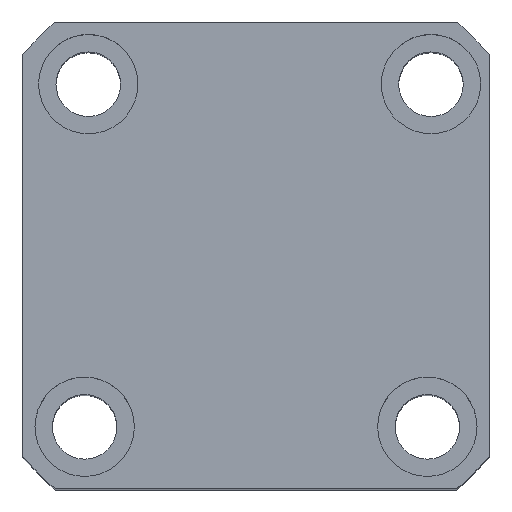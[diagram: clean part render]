
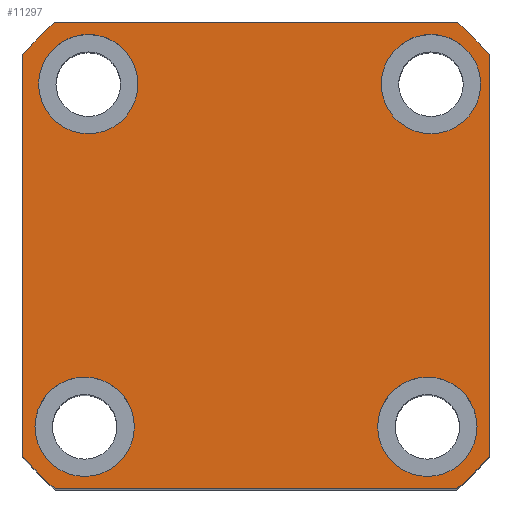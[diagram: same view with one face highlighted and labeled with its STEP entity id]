
A CAD part, top view. The second image highlights one B-rep face of the part: STEP entity #11297.
In plain terms, the highlighted planar face has unit normal (0, 0, 1) as drawn and (0, 0, -1) by its records, which use the part's own axes.
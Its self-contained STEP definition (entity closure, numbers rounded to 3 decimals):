
#88 = VERTEX_POINT ( 'NONE', #19450 ) ;
#106 = VERTEX_POINT ( 'NONE', #18021 ) ;
#240 = CIRCLE ( 'NONE', #19145, 62. ) ;
#349 = ORIENTED_EDGE ( 'NONE', *, *, #3731, .F. ) ;
#384 = CIRCLE ( 'NONE', #8281, 10. ) ;
#445 = CARTESIAN_POINT ( 'NONE',  ( 47., 47., 0. ) ) ;
#562 = DIRECTION ( 'NONE',  ( 1., 0., 0. ) ) ;
#1041 = FACE_BOUND ( 'NONE', #21769, .T. ) ;
#1134 = EDGE_CURVE ( 'NONE', #9403, #4794, #15720, .T. ) ;
#1141 = VERTEX_POINT ( 'NONE', #2913 ) ;
#1464 = EDGE_LOOP ( 'NONE', ( #8419, #349 ) ) ;
#1569 = FACE_BOUND ( 'NONE', #1464, .T. ) ;
#1663 = CARTESIAN_POINT ( 'NONE',  ( -23.77, -34.5, 0. ) ) ;
#1951 = CARTESIAN_POINT ( 'NONE',  ( 34.5, 34.5, 0. ) ) ;
#1957 = ORIENTED_EDGE ( 'NONE', *, *, #2266, .F. ) ;
#2108 = LINE ( 'NONE', #445, #20094 ) ;
#2113 = AXIS2_PLACEMENT_3D ( 'NONE', #7267, #19517, #9022 ) ;
#2143 = CARTESIAN_POINT ( 'NONE',  ( 35.23, -34.5, 0. ) ) ;
#2266 = EDGE_CURVE ( 'NONE', #11599, #15440, #7995, .T. ) ;
#2775 = CARTESIAN_POINT ( 'NONE',  ( 45.23, -34.5, 0. ) ) ;
#2846 = CARTESIAN_POINT ( 'NONE',  ( -33.77, -34.5, 0. ) ) ;
#2913 = CARTESIAN_POINT ( 'NONE',  ( -47., 40.435, 0. ) ) ;
#3047 = ORIENTED_EDGE ( 'NONE', *, *, #3835, .F. ) ;
#3135 = DIRECTION ( 'NONE',  ( 0., 0., 1. ) ) ;
#3565 = ORIENTED_EDGE ( 'NONE', *, *, #20060, .F. ) ;
#3592 = ORIENTED_EDGE ( 'NONE', *, *, #4293, .F. ) ;
#3680 = DIRECTION ( 'NONE',  ( -1., 0., 0. ) ) ;
#3727 = CIRCLE ( 'NONE', #22328, 10. ) ;
#3731 = EDGE_CURVE ( 'NONE', #4794, #9403, #15416, .T. ) ;
#3835 = EDGE_CURVE ( 'NONE', #17194, #88, #5009, .T. ) ;
#3873 = DIRECTION ( 'NONE',  ( -1., 0., 0. ) ) ;
#3984 = DIRECTION ( 'NONE',  ( 1., 0., 0. ) ) ;
#4021 = VERTEX_POINT ( 'NONE', #4110 ) ;
#4110 = CARTESIAN_POINT ( 'NONE',  ( 40.435, -47., 0. ) ) ;
#4134 = ORIENTED_EDGE ( 'NONE', *, *, #19634, .F. ) ;
#4293 = EDGE_CURVE ( 'NONE', #20321, #7074, #21357, .T. ) ;
#4674 = CARTESIAN_POINT ( 'NONE',  ( -24.5, 34.5, 0. ) ) ;
#4794 = VERTEX_POINT ( 'NONE', #1663 ) ;
#5009 = CIRCLE ( 'NONE', #12167, 10. ) ;
#5135 = DIRECTION ( 'NONE',  ( 0., 0., -1. ) ) ;
#5137 = CARTESIAN_POINT ( 'NONE',  ( -40.435, -47., 0. ) ) ;
#5619 = FACE_BOUND ( 'NONE', #20301, .T. ) ;
#5926 = CARTESIAN_POINT ( 'NONE',  ( 47., 40.435, 0. ) ) ;
#6584 = CARTESIAN_POINT ( 'NONE',  ( 0., 0., 0. ) ) ;
#6591 = VERTEX_POINT ( 'NONE', #5137 ) ;
#6612 = CARTESIAN_POINT ( 'NONE',  ( -34.5, 34.5, 0. ) ) ;
#6730 = CIRCLE ( 'NONE', #22167, 62. ) ;
#6755 = VERTEX_POINT ( 'NONE', #12961 ) ;
#6812 = ORIENTED_EDGE ( 'NONE', *, *, #15240, .F. ) ;
#7074 = VERTEX_POINT ( 'NONE', #19542 ) ;
#7109 = DIRECTION ( 'NONE',  ( -1., 0., 0. ) ) ;
#7267 = CARTESIAN_POINT ( 'NONE',  ( -34.5, 34.5, 0. ) ) ;
#7436 = VECTOR ( 'NONE', #13013, 1000. ) ;
#7759 = CIRCLE ( 'NONE', #18778, 62. ) ;
#7768 = CARTESIAN_POINT ( 'NONE',  ( 0., 0., 0. ) ) ;
#7915 = ORIENTED_EDGE ( 'NONE', *, *, #15703, .F. ) ;
#7975 = CARTESIAN_POINT ( 'NONE',  ( -47., -47., 0. ) ) ;
#7995 = CIRCLE ( 'NONE', #11513, 10. ) ;
#8281 = AXIS2_PLACEMENT_3D ( 'NONE', #1951, #14125, #3680 ) ;
#8321 = DIRECTION ( 'NONE',  ( 1., 0., 0. ) ) ;
#8350 = DIRECTION ( 'NONE',  ( -1., 0., 0. ) ) ;
#8419 = ORIENTED_EDGE ( 'NONE', *, *, #1134, .F. ) ;
#8983 = CARTESIAN_POINT ( 'NONE',  ( 35.23, -34.5, 0. ) ) ;
#9022 = DIRECTION ( 'NONE',  ( -1., 0., 0. ) ) ;
#9112 = PLANE ( 'NONE',  #11669 ) ;
#9120 = VERTEX_POINT ( 'NONE', #5926 ) ;
#9133 = CARTESIAN_POINT ( 'NONE',  ( 25.23, -34.5, 0. ) ) ;
#9379 = VERTEX_POINT ( 'NONE', #18676 ) ;
#9403 = VERTEX_POINT ( 'NONE', #13392 ) ;
#9422 = CARTESIAN_POINT ( 'NONE',  ( 0., 0., 0. ) ) ;
#9479 = CARTESIAN_POINT ( 'NONE',  ( -47., 47., 0. ) ) ;
#9818 = CARTESIAN_POINT ( 'NONE',  ( -47., 47., 0. ) ) ;
#9828 = AXIS2_PLACEMENT_3D ( 'NONE', #20690, #10224, #22395 ) ;
#10061 = AXIS2_PLACEMENT_3D ( 'NONE', #2143, #14307, #3873 ) ;
#10087 = LINE ( 'NONE', #7975, #14782 ) ;
#10224 = DIRECTION ( 'NONE',  ( 0., 0., -1. ) ) ;
#10522 = LINE ( 'NONE', #9818, #19307 ) ;
#10744 = DIRECTION ( 'NONE',  ( -1., 0., 0. ) ) ;
#10892 = DIRECTION ( 'NONE',  ( 0., 0., 1. ) ) ;
#10945 = EDGE_CURVE ( 'NONE', #7074, #1141, #240, .T. ) ;
#11100 = CARTESIAN_POINT ( 'NONE',  ( 40.435, 47., 0. ) ) ;
#11173 = DIRECTION ( 'NONE',  ( 1., 0., 0. ) ) ;
#11297 = ADVANCED_FACE ( 'NONE', ( #1569, #19001, #5619, #1041, #20546 ), #9112, .F. ) ;
#11335 = CIRCLE ( 'NONE', #2113, 10. ) ;
#11424 = EDGE_LOOP ( 'NONE', ( #13930, #15061, #6812, #7915, #13130, #14222, #15343, #3592 ) ) ;
#11480 = DIRECTION ( 'NONE',  ( 0., 0., -1. ) ) ;
#11513 = AXIS2_PLACEMENT_3D ( 'NONE', #8983, #21200, #10744 ) ;
#11581 = DIRECTION ( 'NONE',  ( 0., -1., 0. ) ) ;
#11599 = VERTEX_POINT ( 'NONE', #2775 ) ;
#11669 = AXIS2_PLACEMENT_3D ( 'NONE', #7768, #14423, #3984 ) ;
#11732 = ORIENTED_EDGE ( 'NONE', *, *, #14452, .F. ) ;
#12167 = AXIS2_PLACEMENT_3D ( 'NONE', #15619, #5135, #17377 ) ;
#12961 = CARTESIAN_POINT ( 'NONE',  ( 47., -40.435, 0. ) ) ;
#13013 = DIRECTION ( 'NONE',  ( -1., 0., 0. ) ) ;
#13130 = ORIENTED_EDGE ( 'NONE', *, *, #16582, .F. ) ;
#13392 = CARTESIAN_POINT ( 'NONE',  ( -43.77, -34.5, 0. ) ) ;
#13571 = CARTESIAN_POINT ( 'NONE',  ( 0., 0., 0. ) ) ;
#13930 = ORIENTED_EDGE ( 'NONE', *, *, #21895, .F. ) ;
#14125 = DIRECTION ( 'NONE',  ( 0., 0., -1. ) ) ;
#14222 = ORIENTED_EDGE ( 'NONE', *, *, #17578, .F. ) ;
#14307 = DIRECTION ( 'NONE',  ( 0., 0., -1. ) ) ;
#14324 = DIRECTION ( 'NONE',  ( 0., 1., 0. ) ) ;
#14423 = DIRECTION ( 'NONE',  ( 0., 0., 1. ) ) ;
#14452 = EDGE_CURVE ( 'NONE', #88, #17194, #384, .T. ) ;
#14776 = ORIENTED_EDGE ( 'NONE', *, *, #17060, .F. ) ;
#14782 = VECTOR ( 'NONE', #18496, 1000. ) ;
#15061 = ORIENTED_EDGE ( 'NONE', *, *, #20183, .F. ) ;
#15240 = EDGE_CURVE ( 'NONE', #4021, #6755, #18079, .T. ) ;
#15343 = ORIENTED_EDGE ( 'NONE', *, *, #10945, .F. ) ;
#15348 = DIRECTION ( 'NONE',  ( 1., 0., 0. ) ) ;
#15416 = CIRCLE ( 'NONE', #9828, 10. ) ;
#15440 = VERTEX_POINT ( 'NONE', #9133 ) ;
#15619 = CARTESIAN_POINT ( 'NONE',  ( 34.5, 34.5, 0. ) ) ;
#15703 = EDGE_CURVE ( 'NONE', #6591, #4021, #10087, .T. ) ;
#15720 = CIRCLE ( 'NONE', #15944, 10. ) ;
#15725 = VERTEX_POINT ( 'NONE', #4674 ) ;
#15944 = AXIS2_PLACEMENT_3D ( 'NONE', #2846, #11480, #7109 ) ;
#16582 = EDGE_CURVE ( 'NONE', #9379, #6591, #6730, .T. ) ;
#16667 = EDGE_LOOP ( 'NONE', ( #14776, #1957 ) ) ;
#17060 = EDGE_CURVE ( 'NONE', #15440, #11599, #17972, .T. ) ;
#17194 = VERTEX_POINT ( 'NONE', #21191 ) ;
#17273 = AXIS2_PLACEMENT_3D ( 'NONE', #6584, #18832, #8321 ) ;
#17377 = DIRECTION ( 'NONE',  ( -1., 0., 0. ) ) ;
#17578 = EDGE_CURVE ( 'NONE', #1141, #9379, #10522, .T. ) ;
#17972 = CIRCLE ( 'NONE', #10061, 10. ) ;
#18021 = CARTESIAN_POINT ( 'NONE',  ( -44.5, 34.5, 0. ) ) ;
#18079 = CIRCLE ( 'NONE', #17273, 62. ) ;
#18496 = DIRECTION ( 'NONE',  ( 1., 0., 0. ) ) ;
#18676 = CARTESIAN_POINT ( 'NONE',  ( -47., -40.435, 0. ) ) ;
#18778 = AXIS2_PLACEMENT_3D ( 'NONE', #13571, #3135, #15348 ) ;
#18832 = DIRECTION ( 'NONE',  ( 0., 0., 1. ) ) ;
#18861 = DIRECTION ( 'NONE',  ( 0., 0., -1. ) ) ;
#19001 = FACE_BOUND ( 'NONE', #16667, .T. ) ;
#19145 = AXIS2_PLACEMENT_3D ( 'NONE', #21348, #10892, #562 ) ;
#19307 = VECTOR ( 'NONE', #11581, 1000. ) ;
#19450 = CARTESIAN_POINT ( 'NONE',  ( 24.5, 34.5, 0. ) ) ;
#19517 = DIRECTION ( 'NONE',  ( 0., 0., -1. ) ) ;
#19542 = CARTESIAN_POINT ( 'NONE',  ( -40.435, 47., 0. ) ) ;
#19634 = EDGE_CURVE ( 'NONE', #15725, #106, #3727, .T. ) ;
#20060 = EDGE_CURVE ( 'NONE', #106, #15725, #11335, .T. ) ;
#20094 = VECTOR ( 'NONE', #14324, 1000. ) ;
#20183 = EDGE_CURVE ( 'NONE', #6755, #9120, #2108, .T. ) ;
#20301 = EDGE_LOOP ( 'NONE', ( #11732, #3047 ) ) ;
#20321 = VERTEX_POINT ( 'NONE', #11100 ) ;
#20546 = FACE_OUTER_BOUND ( 'NONE', #11424, .T. ) ;
#20690 = CARTESIAN_POINT ( 'NONE',  ( -33.77, -34.5, 0. ) ) ;
#21191 = CARTESIAN_POINT ( 'NONE',  ( 44.5, 34.5, 0. ) ) ;
#21200 = DIRECTION ( 'NONE',  ( 0., 0., -1. ) ) ;
#21348 = CARTESIAN_POINT ( 'NONE',  ( 0., 0., 0. ) ) ;
#21357 = LINE ( 'NONE', #9479, #7436 ) ;
#21616 = DIRECTION ( 'NONE',  ( 0., 0., 1. ) ) ;
#21769 = EDGE_LOOP ( 'NONE', ( #3565, #4134 ) ) ;
#21895 = EDGE_CURVE ( 'NONE', #9120, #20321, #7759, .T. ) ;
#22167 = AXIS2_PLACEMENT_3D ( 'NONE', #9422, #21616, #11173 ) ;
#22328 = AXIS2_PLACEMENT_3D ( 'NONE', #6612, #18861, #8350 ) ;
#22395 = DIRECTION ( 'NONE',  ( -1., 0., 0. ) ) ;
